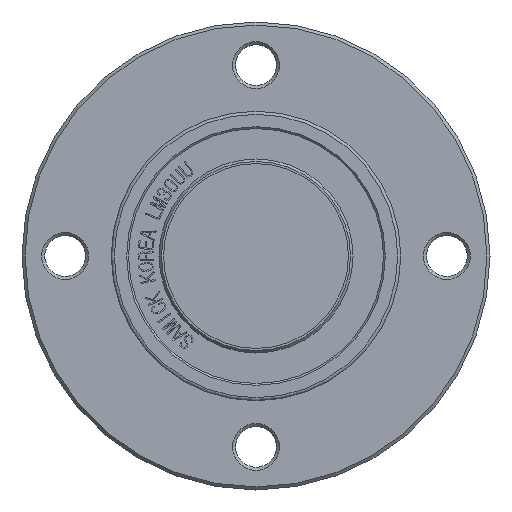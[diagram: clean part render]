
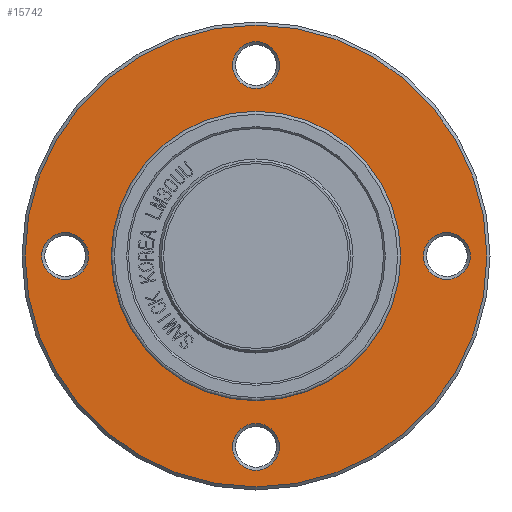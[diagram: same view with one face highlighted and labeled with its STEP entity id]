
A CAD part, front view. The second image highlights one B-rep face of the part: STEP entity #15742.
In plain terms, the highlighted planar face has unit normal (0, -1, 0).
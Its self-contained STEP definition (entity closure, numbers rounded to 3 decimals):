
#2292=FACE_BOUND('',#3452,.T.);
#2293=FACE_BOUND('',#3453,.T.);
#2294=FACE_BOUND('',#3454,.T.);
#2295=FACE_BOUND('',#3455,.T.);
#2296=FACE_BOUND('',#3456,.T.);
#2352=PLANE('',#16645);
#2577=FACE_OUTER_BOUND('',#3451,.T.);
#3451=EDGE_LOOP('',(#10845,#10846));
#3452=EDGE_LOOP('',(#10847));
#3453=EDGE_LOOP('',(#10848));
#3454=EDGE_LOOP('',(#10849,#10850));
#3455=EDGE_LOOP('',(#10851));
#3456=EDGE_LOOP('',(#10852));
#6661=CIRCLE('',#16643,3.8);
#6663=CIRCLE('',#16646,37.5);
#6664=CIRCLE('',#16647,37.5);
#6665=CIRCLE('',#16648,3.8);
#6666=CIRCLE('',#16649,3.8);
#6667=CIRCLE('',#16650,23.5);
#6668=CIRCLE('',#16651,23.5);
#6669=CIRCLE('',#16652,3.8);
#6743=VERTEX_POINT('',#18802);
#6745=VERTEX_POINT('',#18808);
#6746=VERTEX_POINT('',#18809);
#6747=VERTEX_POINT('',#18812);
#6748=VERTEX_POINT('',#18814);
#6749=VERTEX_POINT('',#18816);
#6750=VERTEX_POINT('',#18817);
#6751=VERTEX_POINT('',#18820);
#8385=EDGE_CURVE('',#6743,#6743,#6661,.T.);
#8388=EDGE_CURVE('',#6745,#6746,#6663,.T.);
#8389=EDGE_CURVE('',#6746,#6745,#6664,.T.);
#8390=EDGE_CURVE('',#6747,#6747,#6665,.T.);
#8391=EDGE_CURVE('',#6748,#6748,#6666,.T.);
#8392=EDGE_CURVE('',#6749,#6750,#6667,.T.);
#8393=EDGE_CURVE('',#6750,#6749,#6668,.T.);
#8394=EDGE_CURVE('',#6751,#6751,#6669,.T.);
#10845=ORIENTED_EDGE('',*,*,#8388,.T.);
#10846=ORIENTED_EDGE('',*,*,#8389,.T.);
#10847=ORIENTED_EDGE('',*,*,#8390,.F.);
#10848=ORIENTED_EDGE('',*,*,#8391,.F.);
#10849=ORIENTED_EDGE('',*,*,#8392,.F.);
#10850=ORIENTED_EDGE('',*,*,#8393,.F.);
#10851=ORIENTED_EDGE('',*,*,#8394,.F.);
#10852=ORIENTED_EDGE('',*,*,#8385,.F.);
#15742=ADVANCED_FACE('',(#2577,#2292,#2293,#2294,#2295,#2296),#2352,.T.);
#16643=AXIS2_PLACEMENT_3D('',#18803,#16998,#16999);
#16645=AXIS2_PLACEMENT_3D('',#18807,#17003,#17004);
#16646=AXIS2_PLACEMENT_3D('',#18810,#17005,#17006);
#16647=AXIS2_PLACEMENT_3D('',#18811,#17007,#17008);
#16648=AXIS2_PLACEMENT_3D('',#18813,#17009,#17010);
#16649=AXIS2_PLACEMENT_3D('',#18815,#17011,#17012);
#16650=AXIS2_PLACEMENT_3D('',#18818,#17013,#17014);
#16651=AXIS2_PLACEMENT_3D('',#18819,#17015,#17016);
#16652=AXIS2_PLACEMENT_3D('',#18821,#17017,#17018);
#16998=DIRECTION('center_axis',(0.,-1.,0.));
#16999=DIRECTION('ref_axis',(-1.,0.,0.));
#17003=DIRECTION('center_axis',(0.,-1.,0.));
#17004=DIRECTION('ref_axis',(0.,0.,-1.));
#17005=DIRECTION('center_axis',(0.,-1.,0.));
#17006=DIRECTION('ref_axis',(1.,0.,0.));
#17007=DIRECTION('center_axis',(0.,-1.,0.));
#17008=DIRECTION('ref_axis',(1.,0.,0.));
#17009=DIRECTION('center_axis',(0.,-1.,0.));
#17010=DIRECTION('ref_axis',(0.,0.,-1.));
#17011=DIRECTION('center_axis',(0.,-1.,0.));
#17012=DIRECTION('ref_axis',(0.,0.,
1.));
#17013=DIRECTION('center_axis',(0.,-1.,0.));
#17014=DIRECTION('ref_axis',(1.,0.,0.));
#17015=DIRECTION('center_axis',(0.,-1.,0.));
#17016=DIRECTION('ref_axis',(1.,0.,0.));
#17017=DIRECTION('center_axis',(0.,-1.,0.));
#17018=DIRECTION('ref_axis',(1.,0.,0.));
#18802=CARTESIAN_POINT('',(-27.2,41.5,0.));
#18803=CARTESIAN_POINT('Origin',(-31.,41.5,0.));
#18807=CARTESIAN_POINT('Origin',(23.5,41.5,0.));
#18808=CARTESIAN_POINT('',(37.5,41.5,0.));
#18809=CARTESIAN_POINT('',(-37.5,41.5,0.));
#18810=CARTESIAN_POINT('Origin',(0.,41.5,0.));
#18811=CARTESIAN_POINT('Origin',(0.,41.5,0.));
#18812=CARTESIAN_POINT('',(0.,41.5,-27.2));
#18813=CARTESIAN_POINT('Origin',(0.,41.5,-31.));
#18814=CARTESIAN_POINT('',(0.,41.5,27.2));
#18815=CARTESIAN_POINT('Origin',(0.,41.5,31.));
#18816=CARTESIAN_POINT('',(23.5,41.5,0.));
#18817=CARTESIAN_POINT('',(-23.5,41.5,0.));
#18818=CARTESIAN_POINT('Origin',(0.,41.5,0.));
#18819=CARTESIAN_POINT('Origin',(0.,41.5,0.));
#18820=CARTESIAN_POINT('',(27.2,41.5,0.));
#18821=CARTESIAN_POINT('Origin',(31.,41.5,0.));
